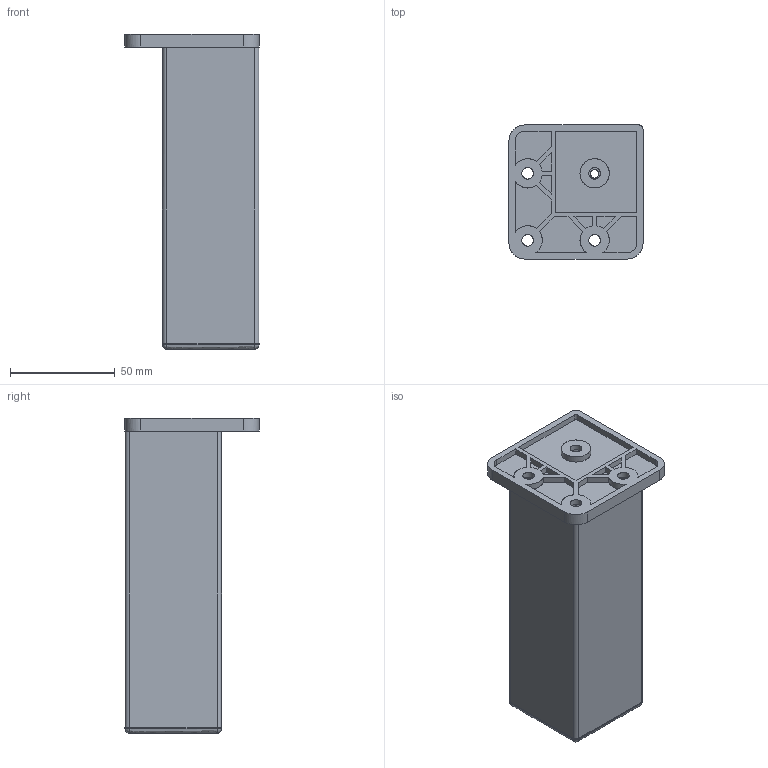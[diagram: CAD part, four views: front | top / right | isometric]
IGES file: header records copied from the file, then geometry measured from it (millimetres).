
Start section: C
Global section: file name: 8110-150.igs; native system: By Siemens PLM Incorporated; preprocessor: XPlus GENERIC/IGES 16.0.42; author: Author; organization: Title; date: 20231128.102625; units: millimetre
Bounding box: 64 x 64 x 150.44 mm (x, y, z)
Surface area: 81816.4 mm2 (no closed solid volume)
Topology: 0 solids, 0 shells, 262 faces, 1404 edges, 1392 vertices
Faces by surface type: bspline 262
